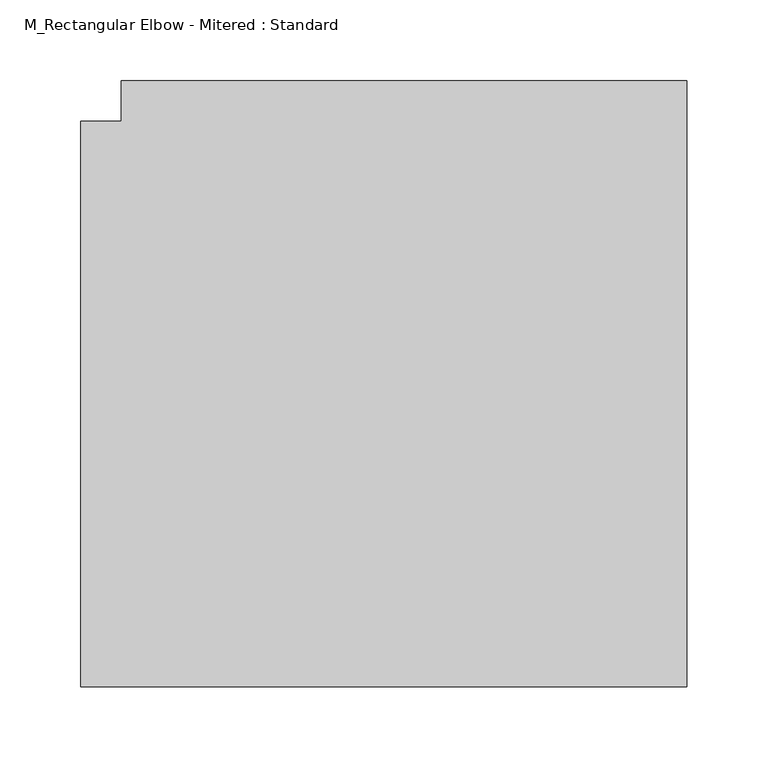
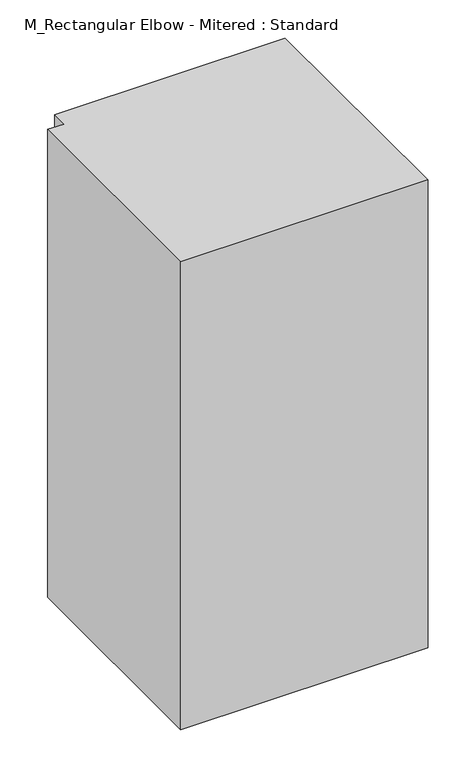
"""IFC4 building model written with IfcOpenShell, lengths in millimetres: duct fitting geometry, M_Rectangular Elbow - Mitered : Standard."""

from ifc_helpers import new_model, si_unit, frame, origin, place, context, project, spatial, polyline, outline, extrude, source, transform, mapped, element, save


def m_rectangular_elbow_mitered_standard_fe2310d5(model_context):
    return source(origin(), model_context, "Body", "SweptSolid", [
        extrude(outline(polyline([(-200.0, -175.0), (-200.0, 175.0), (-175.0, 175.0), (-175.0, 200.0), (175.0, 200.0), (175.0, -175.0), (-200.0, -175.0)])), frame((0.0, 0.0, -375.0), z_axis=(0.0, 0.0, 1.0), x_axis=(1.0, 0.0, 0.0)), (0.0, 0.0, 1.0), 750.0),
        extrude(outline(polyline([(-200.0, -175.0), (-200.0, 175.0), (-175.0, 175.0), (-175.0, 200.0), (175.0, 200.0), (175.0, -175.0), (-200.0, -175.0)])), frame((0.0, 0.0, -375.0), z_axis=(0.0, 0.0, 1.0), x_axis=(1.0, 0.0, 0.0)), (0.0, 0.0, 1.0), 750.0),
        extrude(outline(polyline([(-200.0, -175.0), (-200.0, 175.0), (-175.0, 175.0), (-175.0, 200.0), (175.0, 200.0), (175.0, -175.0), (-200.0, -175.0)])), frame((0.0, 0.0, -375.0), z_axis=(0.0, 0.0, 1.0), x_axis=(1.0, 0.0, 0.0)), (0.0, 0.0, 1.0), 750.0),
    ])


if __name__ == "__main__":
    model = new_model("IFC4")
    model_context = context("Model", 3, world=origin())
    ifc_project = project(units=[si_unit("LENGTHUNIT", "METRE", prefix="MILLI")], contexts=[model_context])
    site = spatial("IfcSite", under=ifc_project)
    building = spatial("IfcBuilding", under=site)
    placement = place(None, origin())
    m_rectangular_elbow_mitered_standard_shape = m_rectangular_elbow_mitered_standard_fe2310d5(model_context)
    element("IfcDuctFitting", 1, ObjectType="M_Rectangular Elbow - Mitered : Standard", at=placement, inside=building, context=model_context, shape_type="MappedRepresentation", body=[
        mapped(m_rectangular_elbow_mitered_standard_shape, transform((0.0, 0.0, 0.0), x_axis=(1.0, 0.0, 0.0), y_axis=(0.0, 1.0, 0.0), z_axis=(0.0, 0.0, 1.0))),
    ])
    save(model, "model.ifc")
